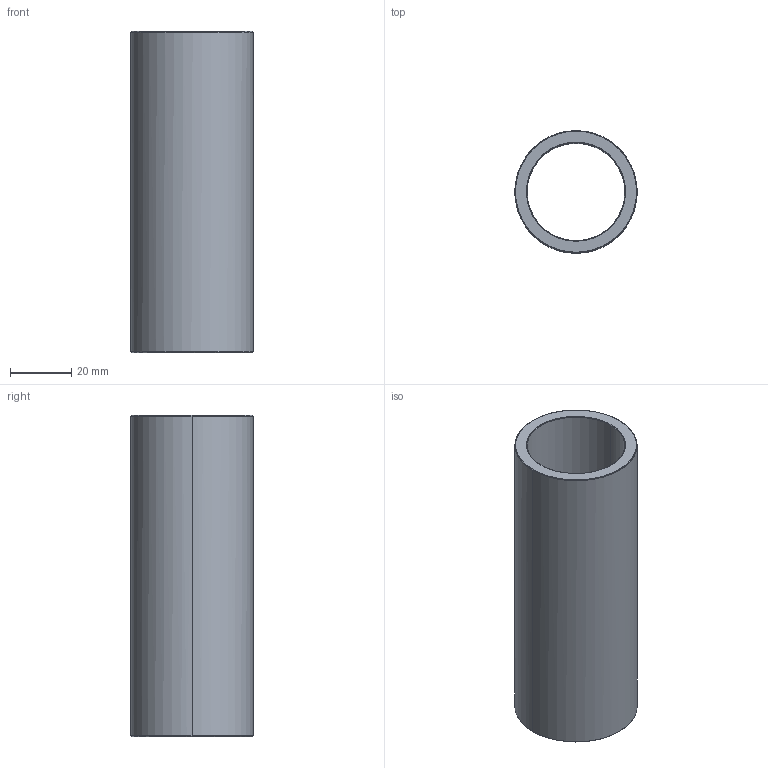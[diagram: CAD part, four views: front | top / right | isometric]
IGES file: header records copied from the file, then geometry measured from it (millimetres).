
Start section: Write IGES format                                    datakit 2008 (c)
Global section: file name: Unknown; native system: DATAKIT Converter; preprocessor: Unknown; author: Unknown; organization: Unknown; date: 950613.180003; units: millimetre
Bounding box: 40 x 40 x 105 mm (x, y, z)
Surface area: 24602.2 mm2 (no closed solid volume)
Topology: 0 solids, 0 shells, 14 faces, 56 edges, 56 vertices
Faces by surface type: revolution 12, bspline 2
